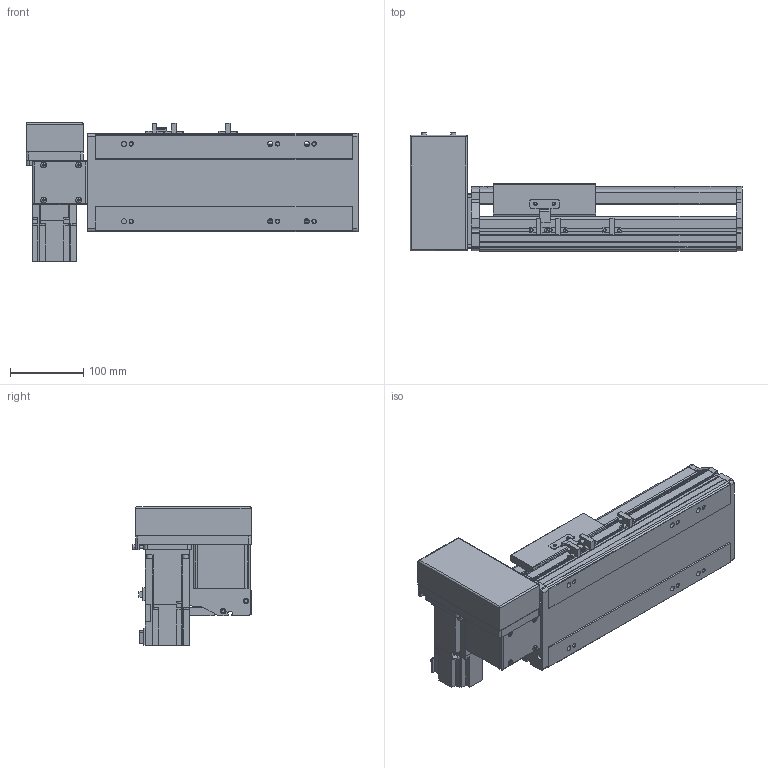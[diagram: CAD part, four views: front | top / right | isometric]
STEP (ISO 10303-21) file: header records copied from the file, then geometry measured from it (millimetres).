
FILE_DESCRIPTION(/* description */ ('STEP AP214'),/* implementation_level */ '2;1');
FILE_NAME(/* name */ 'PBS140S-P40-S100-RU-T40-C1-N(0)',/* time_stamp */ '2022-06-09T02:53:36+02:00',/* author */ ('License CC BY-ND 4.0'),/* organization */ ('CADENAS'),/* preprocessor_version */ 'ST-DEVELOPER v18.102',/* originating_system */ 'PARTsolutions',/* authorisation */ ' ');
FILE_SCHEMA (('AUTOMOTIVE_DESIGN {1 0 10303 214 3 1 1}'));
Length unit declared in the file: millimetre
Products named in the file (7): PBS140S-P40-S100-RU-T40-C1-N(0); PBS140S_sensor; PBS140S_plant; PBS140S_sliser; T40-p1; PBS140ST-RU_motors; PBS140S-S100()_body
Assembly tree (8 placements, depth 2):
  PBS140S-P40-S100-RU-T40-C1-N(0)
    PBS140S_sensor  x3
    PBS140S_plant
    PBS140S_sliser
    T40-p1
    PBS140ST-RU_motors
    PBS140S-S100()_body
Bounding box: 454 x 162.5 x 189.7 mm (x, y, z)
Volume: 2939606.2 mm3; surface area: 549066.8 mm2
Topology: 8 solids, 8 shells, 1019 faces, 2711 edges, 1775 vertices
Faces by surface type: plane 672, cylinder 305, cone 32, sphere 8, torus 2
Full cylindrical faces by diameter (mm): 3.242 x4, 4 x2, 4.134 x4, 4.4 x8, 4.5 x2, 4.8 x4, 4.917 x14, 5.5 x7, 6 x2, 7 x8, 7.5 x8, 8 x12, 8.5 x4, 10.5 x6, 14 x1, 30 x2, 50 x2
Entity records: 29206 total; most frequent: CARTESIAN_POINT 5256, DIRECTION 4998, ORIENTED_EDGE 4762, EDGE_CURVE 2381, AXIS2_PLACEMENT_3D 1709, VERTEX_POINT 1633, LINE 1580, VECTOR 1580
